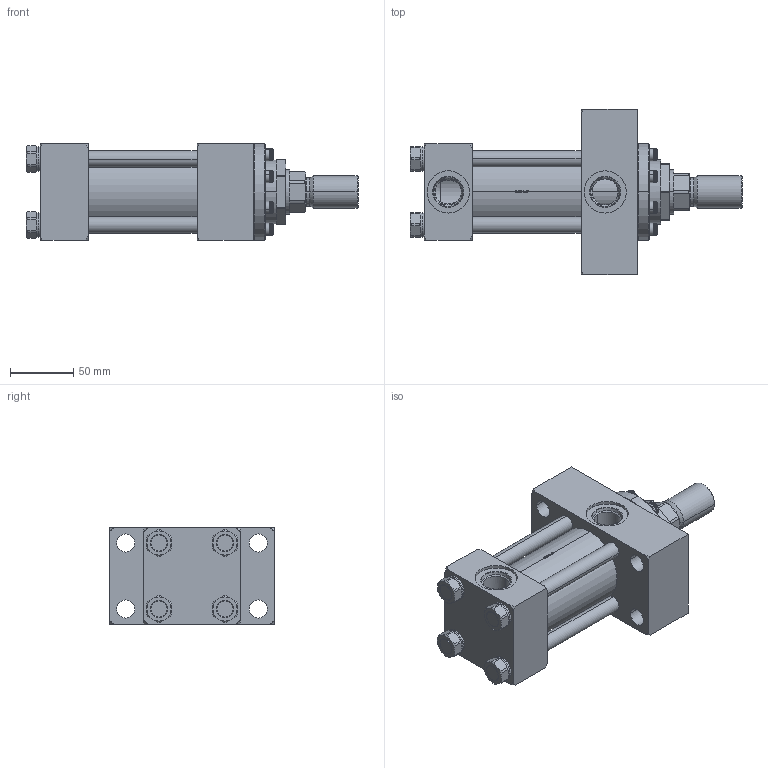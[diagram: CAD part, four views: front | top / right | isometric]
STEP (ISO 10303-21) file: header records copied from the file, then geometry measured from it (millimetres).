
FILE_DESCRIPTION (( 'STEP AP214' ), '1' );
FILE_NAME ('2.00JJ2HHNAT124A2.000.step', '2026-03-26T21:19:46', ( '' ), ( '' ), 'SwSTEP 2.0', 'SolidWorks 2023', '' );
FILE_SCHEMA (( 'AUTOMOTIVE_DESIGN' ));
Length unit declared in the file: inch
Products named in the file (1): 2.00JJ2HHNAT124A2.000
Bounding box: 261.94 x 130.18 x 76.2 mm (x, y, z)
Volume: 921822.8 mm3; surface area: 221035.7 mm2
Topology: 40 solids, 40 shells, 1590 faces, 4136 edges, 2636 vertices
Faces by surface type: plane 816, cylinder 509, cone 227, bspline 30, torus 8
Entity records: 73162 total; most frequent: CARTESIAN_POINT 13813, ORIENTED_EDGE 8192, DIRECTION 7866, EDGE_CURVE 4096, AXIS2_PLACEMENT_3D 3031, VERTEX_POINT 2636, LINE 1804, VECTOR 1804
